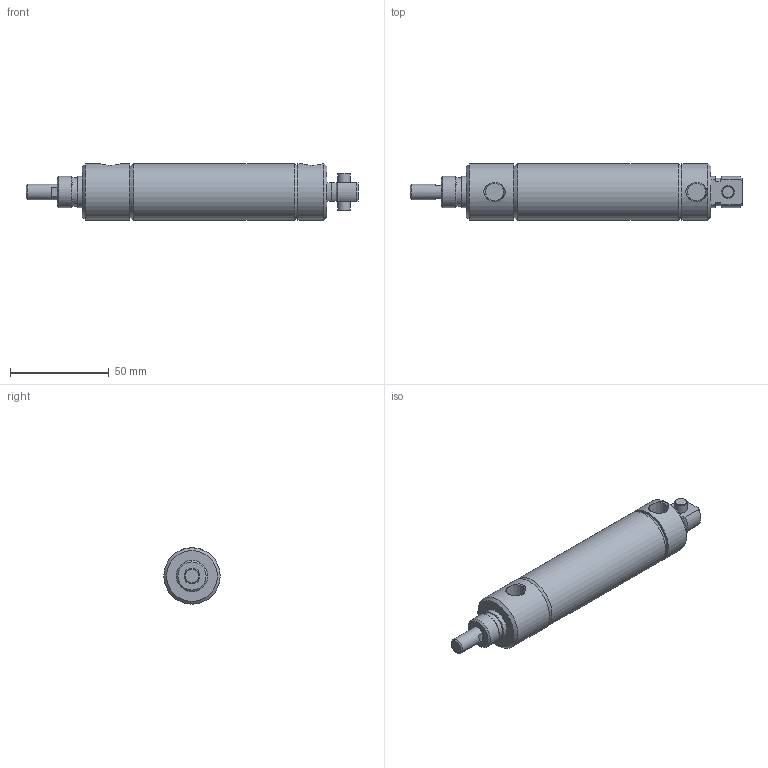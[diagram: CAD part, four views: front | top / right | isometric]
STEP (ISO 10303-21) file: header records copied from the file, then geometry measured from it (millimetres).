
FILE_DESCRIPTION( ( 'STEP AP214' ), '1' );
FILE_NAME( 'p:/temp/worker_169/temp/exporttempdir_5276_4_RJFi0/format_0/1062D02-02A-03.stp', '2020-05-06T12:45:01', ( 'License CC BY-ND 4.0' ), ( 'CADENAS' ), ' ', 'PARTsolutions', ' ' );
FILE_SCHEMA( ( 'AUTOMOTIVE_DESIGN { 1 0 10303 214 1 1 1 1 }' ) );
Length unit declared in the file: inch
Products named in the file (3): 1062D02-02A-03; _1062D02-02A-031062D02-02A-0300A00A0b; _1062D02-02A-031062D02-02A-0300A00A0r
Assembly tree (2 placements, depth 2):
  1062D02-02A-03
    _1062D02-02A-031062D02-02A-0300A00A0b
    _1062D02-02A-031062D02-02A-0300A00A0r
Bounding box: 168.28 x 28.57 x 28.57 mm (x, y, z)
Volume: 56022.8 mm3; surface area: 29848.5 mm2
Topology: 2 solids, 2 shells, 65 faces, 129 edges, 83 vertices
Faces by surface type: plane 27, cone 19, cylinder 19
Full cylindrical faces by diameter (mm): 6.35 x2, 7.95 x3, 14.196 x1, 15.85 x1, 15.875 x1, 26.987 x2, 28.397 x1, 28.575 x2
Entity records: 2276 total; most frequent: CARTESIAN_POINT 442, DIRECTION 280, ORIENTED_EDGE 204, AXIS2_PLACEMENT_3D 126, EDGE_LOOP 104, EDGE_CURVE 102, VERTEX_POINT 80, FACE_OUTER_BOUND 78
